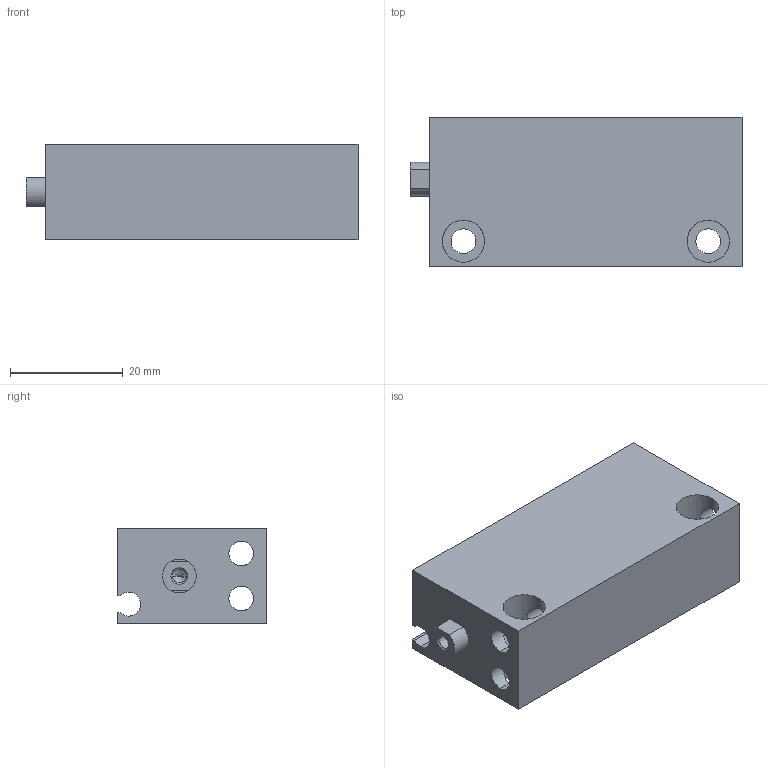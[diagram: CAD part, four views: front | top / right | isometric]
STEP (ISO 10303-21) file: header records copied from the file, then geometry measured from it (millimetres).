
FILE_DESCRIPTION (( 'STEP AP203' ), '1' );
FILE_NAME ('CLJB12-40.STEP', '2020-07-30T19:20:36', ( '' ), ( '' ), 'SwSTEP 2.0', 'SolidWorks 2019', '' );
FILE_SCHEMA (( 'CONFIG_CONTROL_DESIGN' ));
Length unit declared in the file: millimetre
Products named in the file (1): CLJB12-40
Bounding box: 59 x 26.5 x 17 mm (x, y, z)
Volume: 18256.1 mm3; surface area: 11032.9 mm2
Topology: 2 solids, 2 shells, 75 faces, 188 edges, 113 vertices
Faces by surface type: cylinder 41, plane 22, cone 12
Entity records: 3119 total; most frequent: CARTESIAN_POINT 1223, DIRECTION 394, ORIENTED_EDGE 364, EDGE_CURVE 182, AXIS2_PLACEMENT_3D 152, VERTEX_POINT 113, EDGE_LOOP 93, LINE 90
